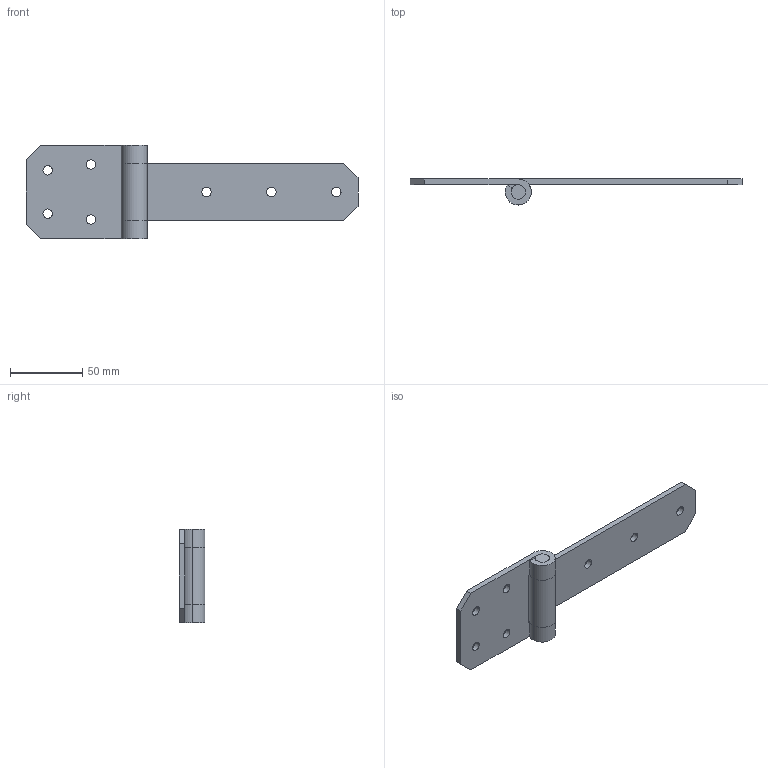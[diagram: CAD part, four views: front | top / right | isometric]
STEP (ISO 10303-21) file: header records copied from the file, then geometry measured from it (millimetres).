
FILE_DESCRIPTION((''),'2;1');
FILE_NAME('6054.02.stp','2015-07-20T11:15:54',(''),(''),'Mechanical Desktop 2006','Mechanical Desktop 2006',', , ');
FILE_SCHEMA(('CONFIG_CONTROL_DESIGN'));
Length unit declared in the file: millimetre
Products named in the file (1): 6054.02_
Bounding box: 230 x 18 x 65 mm (x, y, z)
Volume: 55873.4 mm3; surface area: 29584.8 mm2
Topology: 2 solids, 2 shells, 54 faces, 150 edges, 100 vertices
Faces by surface type: cylinder 32, plane 22
Entity records: 1883 total; most frequent: DIRECTION 328, CARTESIAN_POINT 305, ORIENTED_EDGE 300, EDGE_CURVE 150, AXIS2_PLACEMENT_3D 123, VERTEX_POINT 100, VECTOR 82, LINE 82
